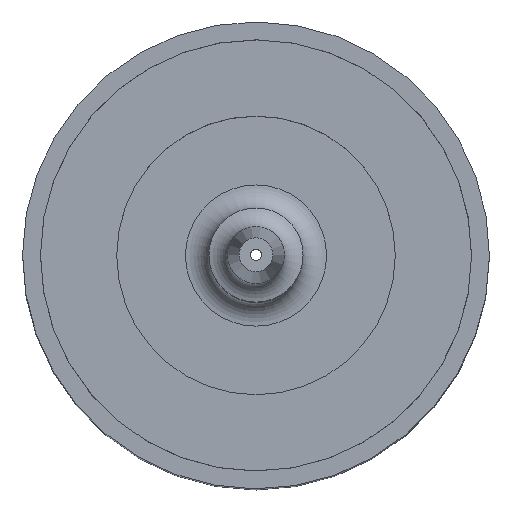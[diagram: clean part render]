
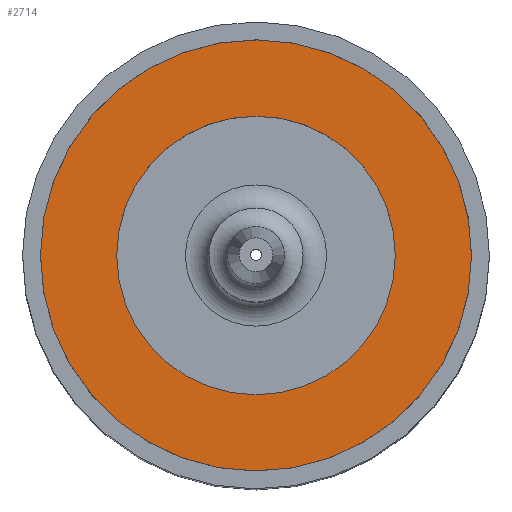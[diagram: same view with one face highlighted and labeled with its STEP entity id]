
A CAD part, top view. The second image highlights one B-rep face of the part: STEP entity #2714.
In plain terms, the highlighted planar face has unit normal (0, 0, 1) as drawn and (0, 0, -1) by its records, which use the part's own axes.
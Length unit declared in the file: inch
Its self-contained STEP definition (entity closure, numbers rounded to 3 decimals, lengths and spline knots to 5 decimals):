
#2648=CARTESIAN_POINT('',(0.5725,0.0,0.0));
#2649=VERTEX_POINT('',#2648);
#2650=CARTESIAN_POINT('',(0.0,0.0,0.0));
#2651=DIRECTION('',(0.0,0.0,1.0));
#2652=DIRECTION('',(1.0,0.0,0.0));
#2653=AXIS2_PLACEMENT_3D('',#2650,#2651,#2652);
#2654=CIRCLE('',#2653,0.5725);
#2655=EDGE_CURVE('',#2649,#2649,#2654,.T.);
#2691=CARTESIAN_POINT('',(0.37,0.0,0.0));
#2692=VERTEX_POINT('',#2691);
#2693=CARTESIAN_POINT('',(0.0,0.0,0.0));
#2694=DIRECTION('',(0.0,0.0,1.0));
#2695=DIRECTION('',(1.0,0.0,0.0));
#2696=AXIS2_PLACEMENT_3D('',#2693,#2694,#2695);
#2697=CIRCLE('',#2696,0.37);
#2698=EDGE_CURVE('',#2692,#2692,#2697,.T.);
#2703=CARTESIAN_POINT('',(0.,0.0,0.0));
#2704=DIRECTION('',(0.0,0.0,1.0));
#2705=DIRECTION('',(1.0,0.0,0.0));
#2706=AXIS2_PLACEMENT_3D('',#2703,#2704,#2705);
#2707=PLANE('',#2706);
#2708=ORIENTED_EDGE('',*,*,#2655,.F.);
#2709=EDGE_LOOP('',(#2708));
#2710=FACE_OUTER_BOUND('',#2709,.T.);
#2711=ORIENTED_EDGE('',*,*,#2698,.T.);
#2712=EDGE_LOOP('',(#2711));
#2713=FACE_BOUND('',#2712,.T.);
#2714=ADVANCED_FACE('',(#2710,#2713),#2707,.F.);
